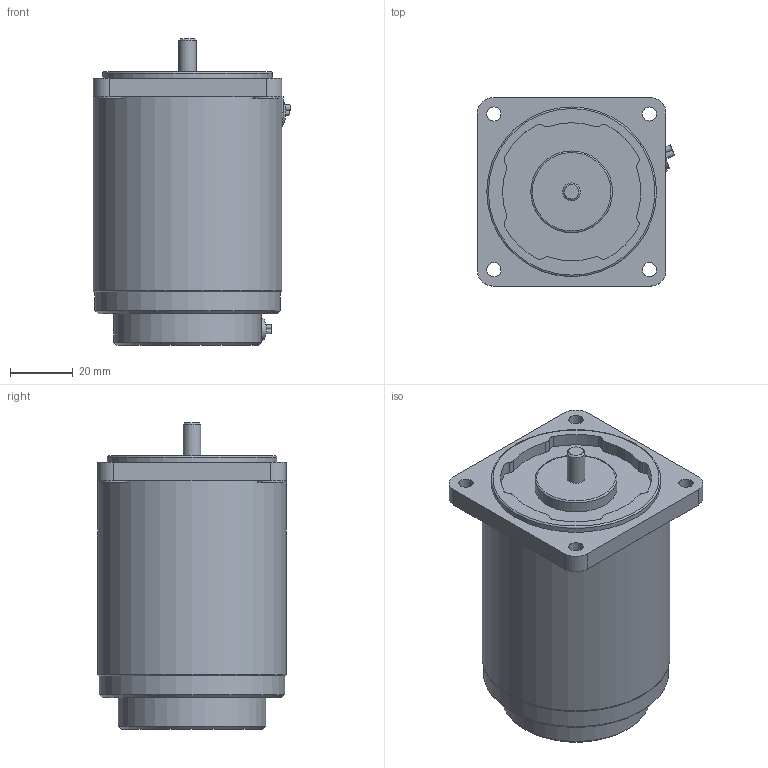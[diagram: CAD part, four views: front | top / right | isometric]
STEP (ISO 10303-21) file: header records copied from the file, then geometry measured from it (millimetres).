
FILE_DESCRIPTION((''),'2;1');
FILE_NAME('E:\2공장-도면\3D\표준형 3D(민규)\step file\SU,SP\K6IG6Nㅁ-Sㅁ.stp','2014-11-14T13:58:50',('AHN'),(''),'Autodesk Inventor 2012','Autodesk Inventor 2012','');
FILE_SCHEMA(('CONFIG_CONTROL_DESIGN'));
Length unit declared in the file: millimetre
Products named in the file (1): K6IG6Nㅁ-Sㅁ
Bounding box: 62.76 x 60 x 97.5 mm (x, y, z)
Volume: 233315.6 mm3; surface area: 24598.1 mm2
Topology: 1 solids, 1 shells, 91 faces, 207 edges, 126 vertices
Faces by surface type: cylinder 53, plane 32, torus 3, cone 3
Full cylindrical faces by diameter (mm): 1.4 x2, 4.5 x4, 5.64 x1, 7 x1, 8 x4, 10 x1, 26 x1, 47 x1, 54 x1, 59 x1, 60 x1
Entity records: 2528 total; most frequent: DIRECTION 478, CARTESIAN_POINT 447, ORIENTED_EDGE 366, AXIS2_PLACEMENT_3D 205, EDGE_CURVE 183, EDGE_LOOP 132, VERTEX_POINT 122, CIRCLE 113
